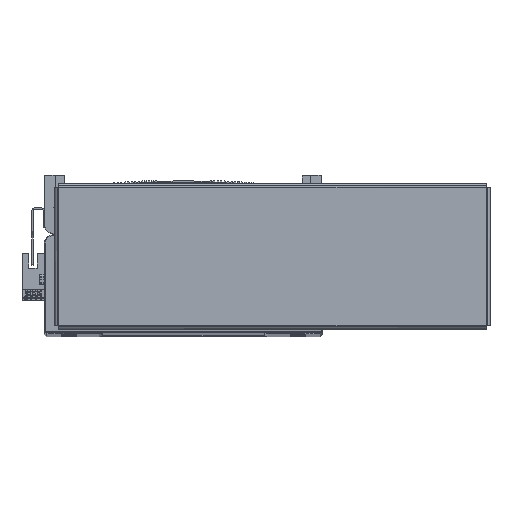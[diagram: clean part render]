
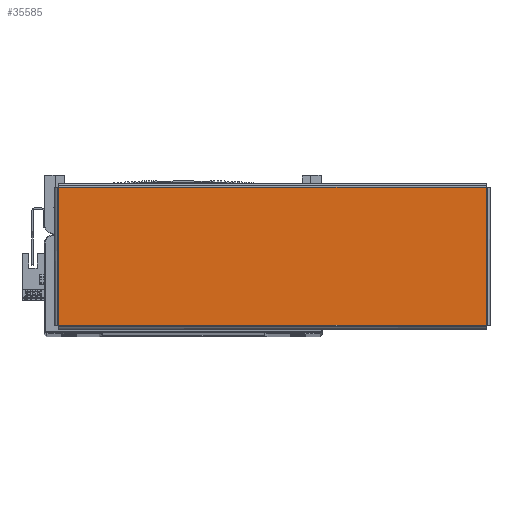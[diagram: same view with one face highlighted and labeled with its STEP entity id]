
A CAD part, top view. The second image highlights one B-rep face of the part: STEP entity #35585.
In plain terms, the highlighted planar face has unit normal (0, 0, 1) as drawn and (0, -1, 0) by its records, which use the part's own axes.
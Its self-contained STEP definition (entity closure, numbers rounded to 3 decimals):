
#8147 = EDGE_CURVE ( 'NONE', #56443, #56485, #42380, .T. ) ;
#8265 = EDGE_CURVE ( 'NONE', #56428, #56443, #42581, .T. ) ;
#9047 = DIRECTION ( 'NONE',  ( 0., 1., 0. ) ) ;
#9051 = PLANE ( 'NONE',  #75629 ) ;
#9055 = CARTESIAN_POINT ( 'NONE',  ( 0., -1.5, 0. ) ) ;
#9067 = DIRECTION ( 'NONE',  ( 0., 0., 1. ) ) ;
#15856 = FACE_OUTER_BOUND ( 'NONE', #23809, .T. ) ;
#21057 = CARTESIAN_POINT ( 'NONE',  ( 130.863, -1.5, -42.263 ) ) ;
#21066 = CARTESIAN_POINT ( 'NONE',  ( -130.863, -1.5, -42.263 ) ) ;
#21091 = CARTESIAN_POINT ( 'NONE',  ( 130.863, -1.5, 42.263 ) ) ;
#21129 = CARTESIAN_POINT ( 'NONE',  ( -130.863, -1.5, 42.263 ) ) ;
#23809 = EDGE_LOOP ( 'NONE', ( #48474, #48603, #48535, #48579 ) ) ;
#35585 = ADVANCED_FACE ( 'NONE', ( #15856 ), #9051, .F. ) ;
#40050 = CARTESIAN_POINT ( 'NONE',  ( 130.893, -1.5, 42.263 ) ) ;
#40054 = DIRECTION ( 'NONE',  ( -1., 0., 0. ) ) ;
#40350 = CARTESIAN_POINT ( 'NONE',  ( 130.863, -1.5, -42.293 ) ) ;
#40380 = DIRECTION ( 'NONE',  ( 0., 0., 1. ) ) ;
#42380 = LINE ( 'NONE', #40050, #42440 ) ;
#42440 = VECTOR ( 'NONE', #40054, 1000. ) ;
#42581 = LINE ( 'NONE', #40350, #42582 ) ;
#42582 = VECTOR ( 'NONE', #40380, 1000. ) ;
#48474 = ORIENTED_EDGE ( 'NONE', *, *, #8265, .T. ) ;
#48535 = ORIENTED_EDGE ( 'NONE', *, *, #59789, .T. ) ;
#48579 = ORIENTED_EDGE ( 'NONE', *, *, #59696, .T. ) ;
#48603 = ORIENTED_EDGE ( 'NONE', *, *, #8147, .T. ) ;
#52747 = DIRECTION ( 'NONE',  ( 1., 0., 0. ) ) ;
#52763 = CARTESIAN_POINT ( 'NONE',  ( -130.893, -1.5, -42.263 ) ) ;
#52947 = DIRECTION ( 'NONE',  ( 0., 0., -1. ) ) ;
#52960 = CARTESIAN_POINT ( 'NONE',  ( -130.863, -1.5, 42.293 ) ) ;
#53790 = VECTOR ( 'NONE', #52747, 1000. ) ;
#53821 = LINE ( 'NONE', #52763, #53790 ) ;
#53932 = VECTOR ( 'NONE', #52947, 1000. ) ;
#53965 = LINE ( 'NONE', #52960, #53932 ) ;
#56428 = VERTEX_POINT ( 'NONE', #21057 ) ;
#56443 = VERTEX_POINT ( 'NONE', #21091 ) ;
#56445 = VERTEX_POINT ( 'NONE', #21066 ) ;
#56485 = VERTEX_POINT ( 'NONE', #21129 ) ;
#59696 = EDGE_CURVE ( 'NONE', #56445, #56428, #53821, .T. ) ;
#59789 = EDGE_CURVE ( 'NONE', #56485, #56445, #53965, .T. ) ;
#75629 = AXIS2_PLACEMENT_3D ( 'NONE', #9055, #9047, #9067 ) ;
